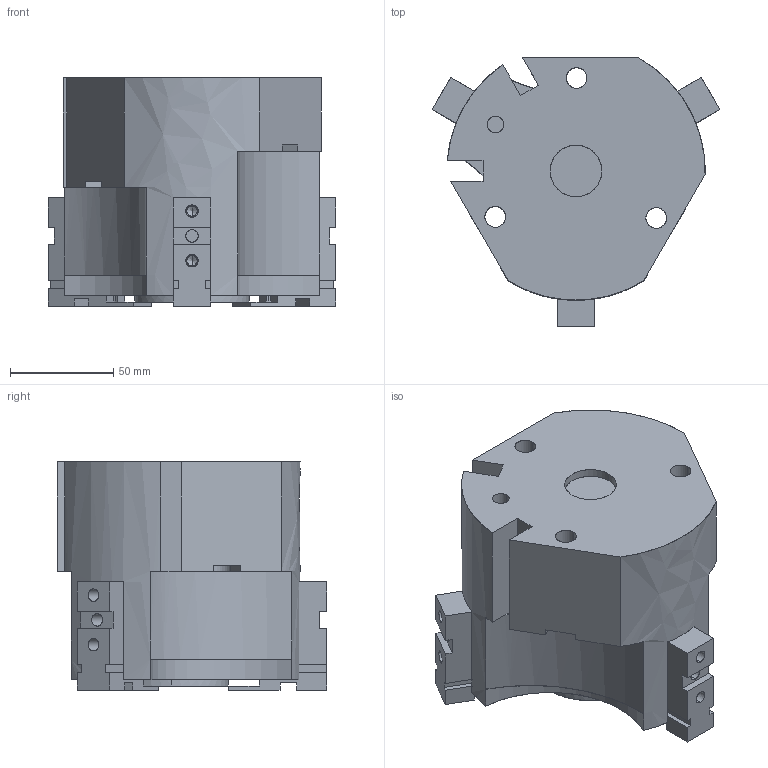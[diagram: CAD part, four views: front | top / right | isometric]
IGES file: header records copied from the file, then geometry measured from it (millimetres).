
Start section: SolidWorks IGES file using analytic representation for surfaces
Global section: file name: D:\Documents de SGA\Pieces 2D et 3D\FICHIERS SOURCES\OPE.SOLIDWORKS\OPE 125-3 S\OPE125-3S.close.IGS; native system: SolidWorks 2010; preprocessor: SolidWorks 2010; author: SGA; date: 111010.110338; units: millimetre
Bounding box: 139.22 x 130.18 x 110.5 mm (x, y, z)
Surface area: 122814.3 mm2 (no closed solid volume)
Topology: 0 solids, 0 shells, 594 faces, 7449 edges, 7425 vertices
Faces by surface type: bspline 483, revolution 111
